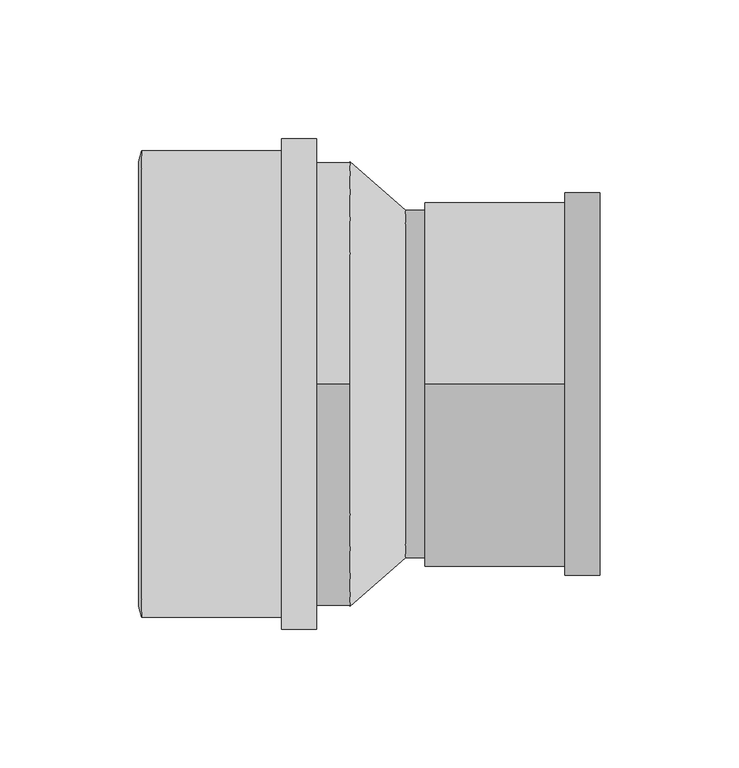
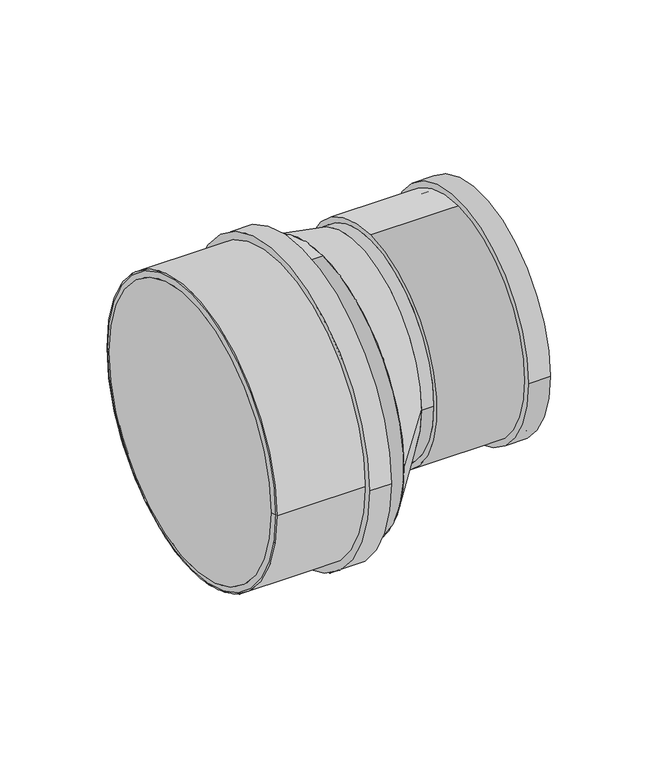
"""IFC4 building model written with IfcOpenShell, lengths in millimetres: pipe fitting geometry, Superdrain HTR-Reducer : Superdrain HTR-Reducer."""

from ifc_helpers import new_model, si_unit, point, frame, frame_2d, origin, origin_2d, place, context, project, spatial, polyline, circle_curve, trimmed, segment, composite_curve, outline, extrude, source, transform, mapped, element, save
from ifc_brep_helpers import plane_surface, revolved_surface, spline_surface, advanced_brep


def pipe_fitting_f5a17043(model_context):
    return source(origin(), model_context, "Body", "SolidModel", [
        extrude(outline(composite_curve([segment(trimmed(circle_curve(frame_2d((0.0, 0.1450234)), 84.0), [point((84.0, 0.1450234))], [point((-84.0, 0.1450234))], False, "CARTESIAN"), True, "CONTINUOUS"), segment(trimmed(circle_curve(frame_2d((0.0, 0.1450234)), 84.0), [point((-84.0, 0.1450234))], [point((84.0, 0.1450234))], False, "CARTESIAN"), True, "CONTINUOUS")], self_intersect=False), holes=[composite_curve([segment(trimmed(circle_curve(frame_2d((0.0, 0.1450234)), 80.0), [point((80.0, 0.1450234))], [point((-80.0, 0.1450234))], True, "CARTESIAN"), True, "CONTINUOUS"), segment(trimmed(circle_curve(frame_2d((0.0, 0.1450234)), 80.0), [point((-80.0, 0.1450234))], [point((80.0, 0.1450234))], True, "CARTESIAN"), True, "CONTINUOUS")], self_intersect=False)]), frame((-75.0, 0.0, 0.0), z_axis=(1.0, 0.0, 0.0), x_axis=(0.0, 1.0, 0.0)), (0.0, 0.0, 1.0), 63.0),
        extrude(outline(composite_curve([segment(trimmed(circle_curve(frame_2d((0.0, 0.1450234)), 88.2), [point((88.2, 0.1450234))], [point((-88.2, 0.1450234))], False, "CARTESIAN"), True, "CONTINUOUS"), segment(trimmed(circle_curve(frame_2d((0.0, 0.1450234)), 88.2), [point((-88.2, 0.1450234))], [point((88.2, 0.1450234))], False, "CARTESIAN"), True, "CONTINUOUS")], self_intersect=False), holes=[composite_curve([segment(trimmed(circle_curve(frame_2d((0.0, 0.1450234)), 80.0), [point((80.0, 0.1450234))], [point((-80.0, 0.1450234))], True, "CARTESIAN"), True, "CONTINUOUS"), segment(trimmed(circle_curve(frame_2d((0.0, 0.1450234)), 80.0), [point((-80.0, 0.1450234))], [point((80.0, 0.1450234))], True, "CARTESIAN"), True, "CONTINUOUS")], self_intersect=False)]), frame((-24.6, 0.0, 0.0), z_axis=(1.0, 0.0, 0.0), x_axis=(0.0, 1.0, 0.0)), (0.0, 0.0, 1.0), 12.6),
        advanced_brep(
        [(-76.0, 80.0, 0.1450234), (-76.0, -80.0, 0.1450234), (-75.0, 84.0, 0.1450234), (-75.0, -84.0, 0.1450234)],
        [
            (0, 1, circle_curve(frame((-76.0, 0.0, 0.1450234), z_axis=(-1.0, 0.0, 0.0), x_axis=(0.0, 1.0, 0.0)), 80.0)),
            (1, 0, circle_curve(frame((-76.0, 0.0, 0.1450234), z_axis=(-1.0, 0.0, 0.0), x_axis=(0.0, -1.0, 0.0)), 80.0)),
            (2, 3, circle_curve(frame((-75.0, 0.0, 0.1450234), z_axis=(1.0, 0.0, 0.0), x_axis=(0.0, -1.0, 0.0)), 84.0)),
            (3, 2, circle_curve(frame((-75.0, 0.0, 0.1450234), z_axis=(1.0, 0.0, 0.0), x_axis=(0.0, 1.0, 0.0)), 84.0)),
            (3, 1),
            (0, 2),
        ],
        [
            plane_surface(frame((-76.0, 0.0, 0.1450234), z_axis=(-1.0, 0.0, 0.0), x_axis=(0.0, 0.0, -1.0))),
            plane_surface(frame((-75.0, 0.0, 0.1450234), z_axis=(1.0, 0.0, 0.0), x_axis=(0.0, 0.0, -1.0))),
            revolved_surface(polyline([(-76.0, 80.0, 0.1450234), (-75.0, 84.0, 0.1450234)]), (-96.0, 0.0, 0.1450234), (1.0, 0.0, 0.0)),
            revolved_surface(polyline([(-76.0, -80.0, 0.1450234), (-75.0, -84.0, 0.1450234)]), (-96.0, 0.0, 0.1450234), (1.0, 0.0, 0.0)),
        ],
        [
            (0, [[1, 2]]),
            (1, [[3, 4]]),
            (2, [[-4, 5, -1, 6]]),
            (3, [[-3, -6, -2, -5]]),
        ],
    ),
        advanced_brep(
        [(20.0, -62.5, 17.5), (20.0, 62.5, 17.5), (0.0, -80.0, 0.0), (0.0, 80.0, 0.0)],
        [
            (0, 1, circle_curve(frame((20.0, 0.0, 17.5), z_axis=(1.0, 0.0, 0.0), x_axis=(0.0, 1.0, 0.0)), 62.5)),
            (1, 0, circle_curve(frame((20.0, 0.0, 17.5), z_axis=(1.0, 0.0, 0.0), x_axis=(0.0, 1.0, 0.0)), 62.5)),
            (2, 3, circle_curve(frame((0.0, 0.0, 0.0), z_axis=(-1.0, 0.0, 0.0), x_axis=(0.0, 1.0, 0.0)), 80.0)),
            (3, 2, circle_curve(frame((0.0, 0.0, 0.0), z_axis=(-1.0, 0.0, 0.0), x_axis=(0.0, 1.0, 0.0)), 80.0)),
            (3, 1),
            (0, 2),
        ],
        [
            plane_surface(frame((20.0, 0.0, 17.5), z_axis=(1.0, 0.0, 0.0), x_axis=(0.0, 0.0, -1.0))),
            plane_surface(frame((0.0, 0.0, 0.0), z_axis=(-1.0, 0.0, 0.0), x_axis=(0.0, 0.0, -1.0))),
            spline_surface(2, 1, [[(0.0, -80.0, 0.0), (20.0, -62.5, 17.5)], [(0.0, -80.0, -80.0), (20.0, -62.5, -45.0)], [(0.0, 0.0, -80.0), (20.0, 0.0, -45.0)], [(0.0, 80.0, -80.0), (20.0, 62.5, -45.0)], [(0.0, 80.0, 0.0), (20.0, 62.5, 17.5)]], [3, 2, 3], [2, 2], [0.0, 1.0, 2.0], [0.0, 1.0], weights=[[1.0, 1.0], [0.7071067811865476, 0.7071067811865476], [1.0, 1.0], [0.7071067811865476, 0.7071067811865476], [1.0, 1.0]]),
            spline_surface(2, 1, [[(0.0, 80.0, 0.0), (20.0, 62.5, 17.5)], [(0.0, 80.0, 80.0), (20.0, 62.5, 80.0)], [(0.0, 0.0, 80.0), (20.0, 0.0, 80.0)], [(0.0, -80.0, 80.0), (20.0, -62.5, 80.0)], [(0.0, -80.0, 0.0), (20.0, -62.5, 17.5)]], [3, 2, 3], [2, 2], [0.0, 1.0, 2.0], [0.0, 1.0], weights=[[1.0, 1.0], [0.7071067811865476, 0.7071067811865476], [1.0, 1.0], [0.7071067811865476, 0.7071067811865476], [1.0, 1.0]]),
        ],
        [
            (0, [[1, 2]]),
            (1, [[3, 4]]),
            (2, [[-4, 5, -1, 6]]),
            (3, [[-3, -6, -2, -5]]),
        ],
    ),
        extrude(outline(composite_curve([segment(trimmed(circle_curve(frame_2d((0.0, 17.5)), 62.5), [point((-62.5, 17.5))], [point((62.5, 17.5))], False, "CARTESIAN"), True, "CONTINUOUS"), segment(trimmed(circle_curve(frame_2d((0.0, 17.5)), 62.5), [point((62.5, 17.5))], [point((-62.5, 17.5))], False, "CARTESIAN"), True, "CONTINUOUS")], self_intersect=False)), frame((20.0, 0.0, 0.0), z_axis=(1.0, 0.0, 0.0), x_axis=(0.0, 1.0, 0.0)), (0.0, 0.0, 1.0), 7.0),
        extrude(outline(composite_curve([segment(trimmed(circle_curve(frame_2d((0.0, 17.5)), 68.90625), [point((-68.90625, 17.5))], [point((68.90625, 17.5))], False, "CARTESIAN"), True, "CONTINUOUS"), segment(trimmed(circle_curve(frame_2d((0.0, 17.5)), 68.90625), [point((68.90625, 17.5))], [point((-68.90625, 17.5))], False, "CARTESIAN"), True, "CONTINUOUS")], self_intersect=False), holes=[composite_curve([segment(trimmed(circle_curve(frame_2d((0.0, 17.5)), 62.5), [point((62.5, 17.5))], [point((-62.5, 17.5))], True, "CARTESIAN"), True, "CONTINUOUS"), segment(trimmed(circle_curve(frame_2d((0.0, 17.5)), 62.5), [point((-62.5, 17.5))], [point((62.5, 17.5))], True, "CARTESIAN"), True, "CONTINUOUS")], self_intersect=False)]), frame((77.4, 0.0, 0.0), z_axis=(1.0, 0.0, 0.0), x_axis=(0.0, 1.0, 0.0)), (0.0, 0.0, 1.0), 12.6),
        extrude(outline(composite_curve([segment(trimmed(circle_curve(frame_2d((0.0, 17.5)), 65.625), [point((0.0, 83.125))], [point((0.0, -48.125))], False, "CARTESIAN"), True, "CONTINUOUS"), segment(trimmed(circle_curve(frame_2d((0.0, 17.5)), 65.625), [point((0.0, -48.125))], [point((0.0, 83.125))], False, "CARTESIAN"), True, "CONTINUOUS")], self_intersect=False), holes=[composite_curve([segment(trimmed(circle_curve(frame_2d((0.0, 17.5)), 62.5), [point((62.5, 17.5))], [point((-62.5, 17.5))], True, "CARTESIAN"), True, "CONTINUOUS"), segment(trimmed(circle_curve(frame_2d((0.0, 17.5)), 62.5), [point((-62.5, 17.5))], [point((62.5, 17.5))], True, "CARTESIAN"), True, "CONTINUOUS")], self_intersect=False)]), frame((27.0, 0.0, 0.0), z_axis=(1.0, 0.0, 0.0), x_axis=(0.0, 1.0, 0.0)), (0.0, 0.0, 1.0), 63.0),
        extrude(outline(composite_curve([segment(trimmed(circle_curve(origin_2d(), 80.0), [point((0.0, 80.0))], [point((0.0, -80.0))], False, "CARTESIAN"), True, "CONTINUOUS"), segment(trimmed(circle_curve(origin_2d(), 80.0), [point((0.0, -80.0))], [point((0.0, 80.0))], False, "CARTESIAN"), True, "CONTINUOUS")], self_intersect=False)), frame((-75.0, 0.0, 0.0), z_axis=(1.0, 0.0, 0.0), x_axis=(0.0, 1.0, 0.0)), (0.0, 0.0, 1.0), 75.0),
    ])


if __name__ == "__main__":
    model = new_model("IFC4")
    model_context = context("Model", 3, world=origin())
    ifc_project = project(units=[si_unit("LENGTHUNIT", "METRE", prefix="MILLI")], contexts=[model_context])
    site = spatial("IfcSite", under=ifc_project)
    building = spatial("IfcBuilding", under=site)
    placement = place(None, origin())
    pipe_fitting_shape = pipe_fitting_f5a17043(model_context)
    element("IfcPipeFitting", 1, ObjectType="Superdrain HTR-Reducer : Superdrain HTR-Reducer", at=placement, inside=building, context=model_context, shape_type="MappedRepresentation", body=[
        mapped(pipe_fitting_shape, transform((0.0, 0.0, 0.0), x_axis=(1.0, 0.0, 0.0), y_axis=(0.0, 1.0, 0.0), z_axis=(0.0, 0.0, 1.0))),
    ])
    save(model, "model.ifc")
